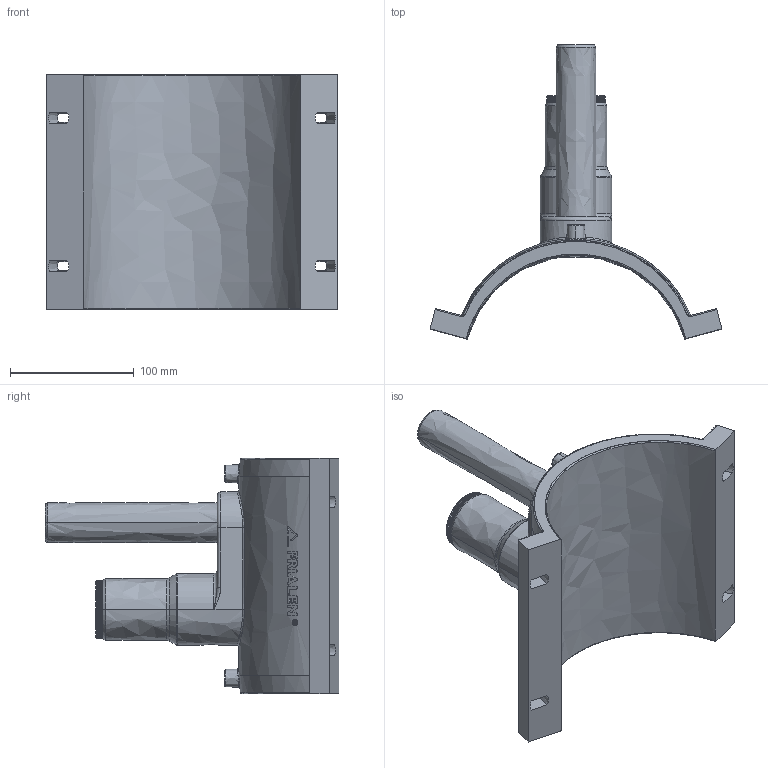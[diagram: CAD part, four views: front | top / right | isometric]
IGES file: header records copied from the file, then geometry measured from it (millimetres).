
Start section:  PTC IGES file: dap_d180_32_01.igs
Global section: file name: dap_d180_32_01.igs; native system: Pro/ENGINEER by Parametric Technology Corporation; preprocessor: 2011490; author: mtunjic; organization: Unknown; date: 20130909.082113; units: millimetre
Bounding box: 235.72 x 237.5 x 190 mm (x, y, z)
Surface area: 171895 mm2 (no closed solid volume)
Topology: 0 solids, 0 shells, 754 faces, 4288 edges, 4288 vertices
Faces by surface type: bspline 754
